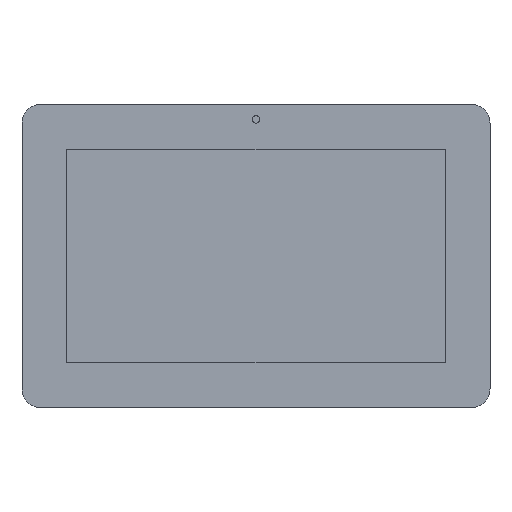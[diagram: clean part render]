
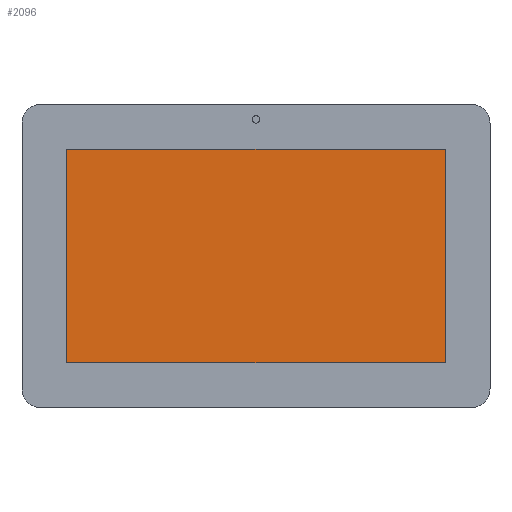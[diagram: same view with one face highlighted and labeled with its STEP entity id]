
A CAD part, top view. The second image highlights one B-rep face of the part: STEP entity #2096.
In plain terms, the highlighted planar face has unit normal (0, 0, 1).
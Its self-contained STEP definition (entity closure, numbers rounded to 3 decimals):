
#396=DIRECTION('',(1.,0.,0.));
#397=VECTOR('',#396,177.24);
#398=CARTESIAN_POINT('',(-88.62,49.98,0.65));
#399=LINE('',#398,#397);
#403=DIRECTION('',(0.,1.,0.));
#404=VECTOR('',#403,99.96);
#405=CARTESIAN_POINT('',(88.62,-49.98,0.65));
#406=LINE('',#405,#404);
#410=DIRECTION('',(1.,0.,0.));
#411=VECTOR('',#410,177.24);
#412=CARTESIAN_POINT('',(-88.62,-49.98,0.65));
#413=LINE('',#412,#411);
#417=DIRECTION('',(0.,1.,0.));
#418=VECTOR('',#417,99.96);
#419=CARTESIAN_POINT('',(-88.62,-49.98,0.65));
#420=LINE('',#419,#418);
#1571=CARTESIAN_POINT('',(-88.62,49.98,0.65));
#1572=CARTESIAN_POINT('',(88.62,49.98,0.65));
#1573=VERTEX_POINT('',#1571);
#1574=VERTEX_POINT('',#1572);
#1575=CARTESIAN_POINT('',(88.62,-49.98,0.65));
#1576=VERTEX_POINT('',#1575);
#1577=CARTESIAN_POINT('',(-88.62,-49.98,0.65));
#1578=VERTEX_POINT('',#1577);
#2082=CARTESIAN_POINT('',(0.,0.,0.65));
#2083=DIRECTION('',(0.,0.,1.));
#2084=DIRECTION('',(1.,0.,0.));
#2085=AXIS2_PLACEMENT_3D('',#2082,#2083,#2084);
#2086=PLANE('',#2085);
#2087=ORIENTED_EDGE('',*,*,#2072,.T.);
#2089=ORIENTED_EDGE('',*,*,#2088,.F.);
#2091=ORIENTED_EDGE('',*,*,#2090,.F.);
#2093=ORIENTED_EDGE('',*,*,#2092,.T.);
#2094=EDGE_LOOP('',(#2087,#2089,#2091,#2093));
#2095=FACE_OUTER_BOUND('',#2094,.F.);
#2096=ADVANCED_FACE('',(#2095),#2086,.T.);
#2072=EDGE_CURVE('',#1573,#1574,#399,.T.);
#2088=EDGE_CURVE('',#1576,#1574,#406,.T.);
#2090=EDGE_CURVE('',#1578,#1576,#413,.T.);
#2092=EDGE_CURVE('',#1578,#1573,#420,.T.);
